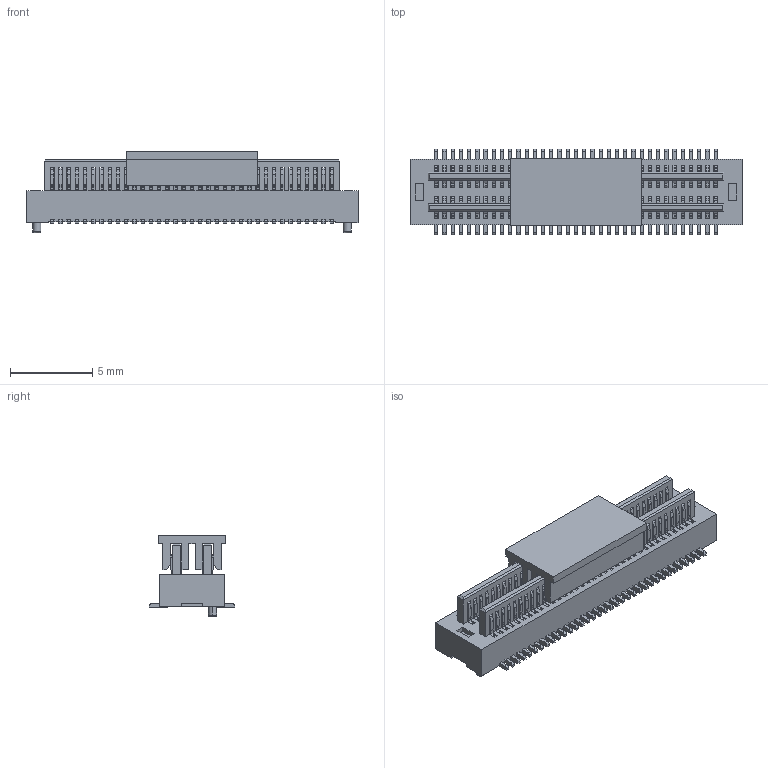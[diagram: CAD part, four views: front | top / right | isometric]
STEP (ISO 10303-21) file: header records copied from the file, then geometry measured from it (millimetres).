
FILE_DESCRIPTION(('CATIA V5 STEP Exchange'),'2;1');
FILE_NAME('F:\黄富鸿\板对板\PBB05\公座\H2.0\编带+盖\HC-PBB05-2-70-M-H2.0-G1-R-P-04（BTB0.5 双槽 公座 立贴 带柱 编带+盖）-HCTL.stp','2025-12-18T01:49:09+00:00',('none'),('none'),'CATIA Version 5 Release 20 GA (IN-10)','CATIA V5 STEP AP203','none');
FILE_SCHEMA(('CONFIG_CONTROL_DESIGN'));
Products named in the file (1): Part2
Bounding box: 20.2 x 5.2 x 4.95 mm (x, y, z)
Volume: 224.7 mm3; surface area: 1690.6 mm2
Topology: 72 solids, 72 shells, 4000 faces, 12238 edges, 8108 vertices
Faces by surface type: plane 2592, cylinder 1404, torus 4
Entity records: 117171 total; most frequent: ORIENTED_EDGE 24476, CARTESIAN_POINT 21748, DIRECTION 13080, EDGE_CURVE 12238, VECTOR 9142, LINE 9142, VERTEX_POINT 8108, EDGE_LOOP 4006
